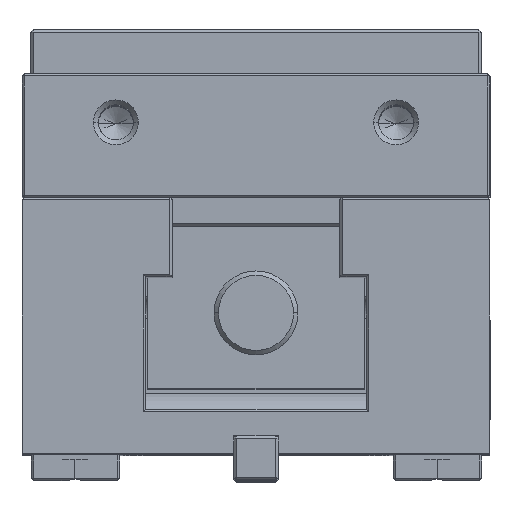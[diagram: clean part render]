
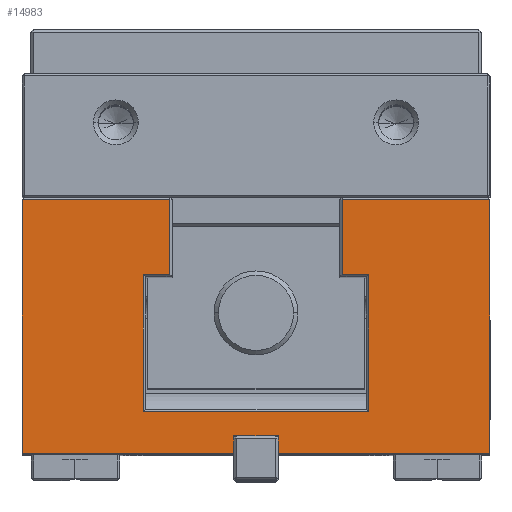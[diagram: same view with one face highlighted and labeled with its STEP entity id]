
A CAD part, top view. The second image highlights one B-rep face of the part: STEP entity #14983.
In plain terms, the highlighted planar face has unit normal (0, 0, 1).
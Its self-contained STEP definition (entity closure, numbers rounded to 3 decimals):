
#5 = CARTESIAN_POINT ( 'NONE',  ( 53., 40.5, 80. ) ) ;
#68 = CARTESIAN_POINT ( 'NONE',  ( -5., 4., 80. ) ) ;
#85 = CARTESIAN_POINT ( 'NONE',  ( 5., 4., 80. ) ) ;
#585 = DIRECTION ( 'NONE',  ( 0., -1., 0. ) ) ;
#941 = DIRECTION ( 'NONE',  ( -1., 0., 0. ) ) ;
#1085 = EDGE_CURVE ( 'NONE', #31868, #26252, #4828, .T. ) ;
#1328 = CARTESIAN_POINT ( 'NONE',  ( -5., 4., 80. ) ) ;
#1464 = EDGE_CURVE ( 'NONE', #26628, #19984, #7138, .T. ) ;
#1616 = ORIENTED_EDGE ( 'NONE', *, *, #1085, .T. ) ;
#1699 = DIRECTION ( 'NONE',  ( -1., 0., 0. ) ) ;
#1777 = DIRECTION ( 'NONE',  ( 0., -1., 0. ) ) ;
#1813 = EDGE_CURVE ( 'NONE', #26252, #27672, #29147, .T. ) ;
#2753 = ORIENTED_EDGE ( 'NONE', *, *, #24462, .T. ) ;
#3094 = ORIENTED_EDGE ( 'NONE', *, *, #37962, .T. ) ;
#3227 = LINE ( 'NONE', #8998, #10287 ) ;
#3390 = VECTOR ( 'NONE', #20104, 1000. ) ;
#3900 = DIRECTION ( 'NONE',  ( -1., 0., 0. ) ) ;
#4110 = CARTESIAN_POINT ( 'NONE',  ( -53., 0., 80. ) ) ;
#4229 = DIRECTION ( 'NONE',  ( -1., 0., 0. ) ) ;
#4238 = EDGE_CURVE ( 'NONE', #34344, #15353, #37137, .T. ) ;
#4602 = LINE ( 'NONE', #19044, #11608 ) ;
#4661 = CARTESIAN_POINT ( 'NONE',  ( -5., 0., 80. ) ) ;
#4779 = CARTESIAN_POINT ( 'NONE',  ( 53., 57.5, 80. ) ) ;
#4828 = LINE ( 'NONE', #7217, #27799 ) ;
#4838 = LINE ( 'NONE', #13585, #34844 ) ;
#4965 = EDGE_CURVE ( 'NONE', #36935, #16693, #29135, .T. ) ;
#5227 = VECTOR ( 'NONE', #4229, 1000. ) ;
#5563 = VERTEX_POINT ( 'NONE', #4661 ) ;
#6128 = VECTOR ( 'NONE', #3900, 1000. ) ;
#6187 = VECTOR ( 'NONE', #12258, 1000. ) ;
#6249 = ORIENTED_EDGE ( 'NONE', *, *, #4965, .T. ) ;
#6510 = LINE ( 'NONE', #1328, #14489 ) ;
#7138 = LINE ( 'NONE', #9270, #6187 ) ;
#7217 = CARTESIAN_POINT ( 'NONE',  ( 53., 57.5, 80. ) ) ;
#7474 = PLANE ( 'NONE',  #27865 ) ;
#7562 = DIRECTION ( 'NONE',  ( 0., 1., 0. ) ) ;
#8534 = ORIENTED_EDGE ( 'NONE', *, *, #1464, .T. ) ;
#8998 = CARTESIAN_POINT ( 'NONE',  ( 53., 0., 80. ) ) ;
#9270 = CARTESIAN_POINT ( 'NONE',  ( -25.5, 0., 80. ) ) ;
#10287 = VECTOR ( 'NONE', #23922, 1000. ) ;
#10298 = VERTEX_POINT ( 'NONE', #13599 ) ;
#10707 = EDGE_CURVE ( 'NONE', #16693, #31108, #19494, .T. ) ;
#11063 = CARTESIAN_POINT ( 'NONE',  ( -19.5, 40.5, 80. ) ) ;
#11191 = CARTESIAN_POINT ( 'NONE',  ( 25.5, 0., 80. ) ) ;
#11448 = CARTESIAN_POINT ( 'NONE',  ( 19.5, 0., 80. ) ) ;
#11515 = VECTOR ( 'NONE', #22085, 1000. ) ;
#11608 = VECTOR ( 'NONE', #37425, 1000. ) ;
#11832 = VECTOR ( 'NONE', #7562, 1000. ) ;
#11870 = CARTESIAN_POINT ( 'NONE',  ( 53., 40.5, 80. ) ) ;
#11895 = ORIENTED_EDGE ( 'NONE', *, *, #1813, .T. ) ;
#12258 = DIRECTION ( 'NONE',  ( 0., 1., 0. ) ) ;
#13365 = DIRECTION ( 'NONE',  ( -1., 0., 0. ) ) ;
#13561 = VERTEX_POINT ( 'NONE', #19222 ) ;
#13585 = CARTESIAN_POINT ( 'NONE',  ( 53., 0., 80. ) ) ;
#13599 = CARTESIAN_POINT ( 'NONE',  ( 53., 0., 80. ) ) ;
#13962 = CARTESIAN_POINT ( 'NONE',  ( -53., 0., 80. ) ) ;
#14489 = VECTOR ( 'NONE', #25318, 1000. ) ;
#14743 = CARTESIAN_POINT ( 'NONE',  ( 19.5, 57.5, 80. ) ) ;
#14983 = ADVANCED_FACE ( 'NONE', ( #35177 ), #7474, .F. ) ;
#15300 = EDGE_CURVE ( 'NONE', #5563, #31108, #3227, .T. ) ;
#15353 = VERTEX_POINT ( 'NONE', #68 ) ;
#15566 = EDGE_CURVE ( 'NONE', #34344, #22792, #33240, .T. ) ;
#15960 = CARTESIAN_POINT ( 'NONE',  ( 19.5, 40.5, 80. ) ) ;
#16310 = LINE ( 'NONE', #11870, #30401 ) ;
#16693 = VERTEX_POINT ( 'NONE', #31708 ) ;
#17861 = EDGE_CURVE ( 'NONE', #31868, #10298, #4602, .T. ) ;
#18209 = VECTOR ( 'NONE', #1777, 1000. ) ;
#18630 = ORIENTED_EDGE ( 'NONE', *, *, #30340, .F. ) ;
#18666 = CARTESIAN_POINT ( 'NONE',  ( 25.5, 40.5, 80. ) ) ;
#18841 = ORIENTED_EDGE ( 'NONE', *, *, #17861, .F. ) ;
#19044 = CARTESIAN_POINT ( 'NONE',  ( 53., 0., 80. ) ) ;
#19222 = CARTESIAN_POINT ( 'NONE',  ( 25.5, 9.5, 80. ) ) ;
#19262 = VERTEX_POINT ( 'NONE', #18666 ) ;
#19329 = CARTESIAN_POINT ( 'NONE',  ( -19.5, 0., 80. ) ) ;
#19341 = LINE ( 'NONE', #11191, #3390 ) ;
#19494 = LINE ( 'NONE', #4110, #11515 ) ;
#19504 = ORIENTED_EDGE ( 'NONE', *, *, #23951, .T. ) ;
#19616 = DIRECTION ( 'NONE',  ( 0., 0., -1. ) ) ;
#19702 = CARTESIAN_POINT ( 'NONE',  ( 5., 4., 80. ) ) ;
#19820 = LINE ( 'NONE', #19329, #11832 ) ;
#19984 = VERTEX_POINT ( 'NONE', #32867 ) ;
#20104 = DIRECTION ( 'NONE',  ( 0., -1., 0. ) ) ;
#20659 = LINE ( 'NONE', #5, #36629 ) ;
#21150 = VECTOR ( 'NONE', #585, 1000. ) ;
#22085 = DIRECTION ( 'NONE',  ( 0., -1., 0. ) ) ;
#22792 = VERTEX_POINT ( 'NONE', #24245 ) ;
#23188 = VECTOR ( 'NONE', #941, 1000. ) ;
#23922 = DIRECTION ( 'NONE',  ( -1., 0., 0. ) ) ;
#23951 = EDGE_CURVE ( 'NONE', #13561, #26628, #24116, .T. ) ;
#24116 = LINE ( 'NONE', #30843, #23188 ) ;
#24245 = CARTESIAN_POINT ( 'NONE',  ( 5., 0., 80. ) ) ;
#24462 = EDGE_CURVE ( 'NONE', #19262, #13561, #19341, .T. ) ;
#24610 = ORIENTED_EDGE ( 'NONE', *, *, #15300, .F. ) ;
#25214 = CARTESIAN_POINT ( 'NONE',  ( 53., 4., 80. ) ) ;
#25224 = EDGE_CURVE ( 'NONE', #19984, #38118, #20659, .T. ) ;
#25318 = DIRECTION ( 'NONE',  ( 0., -1., 0. ) ) ;
#25517 = DIRECTION ( 'NONE',  ( -1., 0., 0. ) ) ;
#26252 = VERTEX_POINT ( 'NONE', #14743 ) ;
#26607 = ORIENTED_EDGE ( 'NONE', *, *, #4238, .F. ) ;
#26628 = VERTEX_POINT ( 'NONE', #31647 ) ;
#26842 = DIRECTION ( 'NONE',  ( 1., 0., 0. ) ) ;
#27672 = VERTEX_POINT ( 'NONE', #15960 ) ;
#27799 = VECTOR ( 'NONE', #13365, 1000. ) ;
#27804 = EDGE_LOOP ( 'NONE', ( #3094, #6249, #31636, #24610, #18630, #26607, #32838, #33765, #18841, #1616, #11895, #37383, #2753, #19504, #8534, #33021 ) ) ;
#27865 = AXIS2_PLACEMENT_3D ( 'NONE', #34586, #19616, #1699 ) ;
#27907 = CARTESIAN_POINT ( 'NONE',  ( 53., 57.5, 80. ) ) ;
#29041 = EDGE_CURVE ( 'NONE', #27672, #19262, #16310, .T. ) ;
#29135 = LINE ( 'NONE', #27907, #6128 ) ;
#29147 = LINE ( 'NONE', #11448, #21150 ) ;
#30340 = EDGE_CURVE ( 'NONE', #15353, #5563, #6510, .T. ) ;
#30401 = VECTOR ( 'NONE', #26842, 1000. ) ;
#30843 = CARTESIAN_POINT ( 'NONE',  ( 53., 9.5, 80. ) ) ;
#31108 = VERTEX_POINT ( 'NONE', #13962 ) ;
#31636 = ORIENTED_EDGE ( 'NONE', *, *, #10707, .T. ) ;
#31647 = CARTESIAN_POINT ( 'NONE',  ( -25.5, 9.5, 80. ) ) ;
#31708 = CARTESIAN_POINT ( 'NONE',  ( -53., 57.5, 80. ) ) ;
#31868 = VERTEX_POINT ( 'NONE', #4779 ) ;
#32838 = ORIENTED_EDGE ( 'NONE', *, *, #15566, .T. ) ;
#32867 = CARTESIAN_POINT ( 'NONE',  ( -25.5, 40.5, 80. ) ) ;
#33021 = ORIENTED_EDGE ( 'NONE', *, *, #25224, .T. ) ;
#33073 = DIRECTION ( 'NONE',  ( 1., 0., 0. ) ) ;
#33240 = LINE ( 'NONE', #19702, #18209 ) ;
#33765 = ORIENTED_EDGE ( 'NONE', *, *, #37979, .F. ) ;
#34344 = VERTEX_POINT ( 'NONE', #85 ) ;
#34586 = CARTESIAN_POINT ( 'NONE',  ( 53., 0., 80. ) ) ;
#34844 = VECTOR ( 'NONE', #25517, 1000. ) ;
#35177 = FACE_OUTER_BOUND ( 'NONE', #27804, .T. ) ;
#36629 = VECTOR ( 'NONE', #33073, 1000. ) ;
#36935 = VERTEX_POINT ( 'NONE', #38164 ) ;
#37137 = LINE ( 'NONE', #25214, #5227 ) ;
#37383 = ORIENTED_EDGE ( 'NONE', *, *, #29041, .T. ) ;
#37425 = DIRECTION ( 'NONE',  ( 0., -1., 0. ) ) ;
#37962 = EDGE_CURVE ( 'NONE', #38118, #36935, #19820, .T. ) ;
#37979 = EDGE_CURVE ( 'NONE', #10298, #22792, #4838, .T. ) ;
#38118 = VERTEX_POINT ( 'NONE', #11063 ) ;
#38164 = CARTESIAN_POINT ( 'NONE',  ( -19.5, 57.5, 80. ) ) ;
